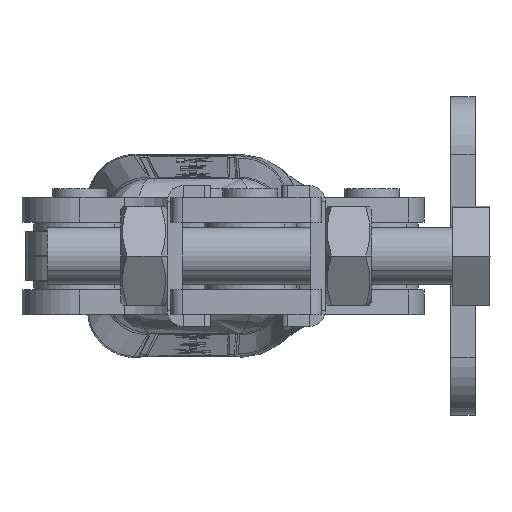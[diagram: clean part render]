
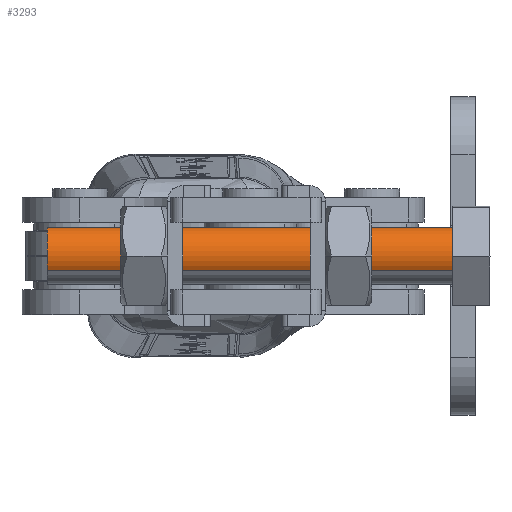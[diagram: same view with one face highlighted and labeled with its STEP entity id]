
A CAD part, left-side view. The second image highlights one B-rep face of the part: STEP entity #3293.
In plain terms, the highlighted cylindrical face has radius 5 mm (diameter 10 mm), a partial arc.
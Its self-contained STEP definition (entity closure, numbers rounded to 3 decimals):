
#76 = EDGE_CURVE ( 'NONE', #8134, #12377, #15923, .T. ) ;
#1326 = VECTOR ( 'NONE', #3403, 1000. ) ;
#1521 = CARTESIAN_POINT ( 'NONE',  ( 0., -70., 0. ) ) ;
#1565 = CARTESIAN_POINT ( 'NONE',  ( 0., -70., -5. ) ) ;
#3001 = AXIS2_PLACEMENT_3D ( 'NONE', #15591, #4621, #17432 ) ;
#3009 = LINE ( 'NONE', #16011, #17043 ) ;
#3293 = ADVANCED_FACE ( 'NONE', ( #4455 ), #8712, .T. ) ;
#3361 = DIRECTION ( 'NONE',  ( 0., 0., -1. ) ) ;
#3372 = ORIENTED_EDGE ( 'NONE', *, *, #76, .F. ) ;
#3403 = DIRECTION ( 'NONE',  ( 0., 1., 0. ) ) ;
#4197 = VERTEX_POINT ( 'NONE', #15765 ) ;
#4455 = FACE_OUTER_BOUND ( 'NONE', #6092, .T. ) ;
#4621 = DIRECTION ( 'NONE',  ( 0., -1., 0. ) ) ;
#4662 = CARTESIAN_POINT ( 'NONE',  ( 0., -70., -5. ) ) ;
#5830 = AXIS2_PLACEMENT_3D ( 'NONE', #1521, #14320, #3361 ) ;
#6092 = EDGE_LOOP ( 'NONE', ( #3372, #15662, #8999, #7585 ) ) ;
#7585 = ORIENTED_EDGE ( 'NONE', *, *, #21957, .T. ) ;
#8134 = VERTEX_POINT ( 'NONE', #4662 ) ;
#8471 = DIRECTION ( 'NONE',  ( 0., 0., 1. ) ) ;
#8712 = CYLINDRICAL_SURFACE ( 'NONE', #20749, 5. ) ;
#8999 = ORIENTED_EDGE ( 'NONE', *, *, #10319, .T. ) ;
#10319 = EDGE_CURVE ( 'NONE', #13085, #4197, #3009, .T. ) ;
#10351 = EDGE_CURVE ( 'NONE', #13085, #8134, #12164, .T. ) ;
#11778 = CARTESIAN_POINT ( 'NONE',  ( 0., -70., 5. ) ) ;
#12164 = CIRCLE ( 'NONE', #5830, 5. ) ;
#12377 = VERTEX_POINT ( 'NONE', #14909 ) ;
#13085 = VERTEX_POINT ( 'NONE', #11778 ) ;
#13938 = DIRECTION ( 'NONE',  ( 0., 1., 0. ) ) ;
#14009 = CARTESIAN_POINT ( 'NONE',  ( 0., -70., 0. ) ) ;
#14320 = DIRECTION ( 'NONE',  ( 0., -1., 0. ) ) ;
#14909 = CARTESIAN_POINT ( 'NONE',  ( 0., 0., -5. ) ) ;
#15591 = CARTESIAN_POINT ( 'NONE',  ( 0., 0., 0. ) ) ;
#15662 = ORIENTED_EDGE ( 'NONE', *, *, #10351, .F. ) ;
#15765 = CARTESIAN_POINT ( 'NONE',  ( 0., 0., 5. ) ) ;
#15923 = LINE ( 'NONE', #1565, #1326 ) ;
#16011 = CARTESIAN_POINT ( 'NONE',  ( 0., -70., 5. ) ) ;
#17043 = VECTOR ( 'NONE', #21422, 1000. ) ;
#17432 = DIRECTION ( 'NONE',  ( 0., 0., 1. ) ) ;
#18232 = CIRCLE ( 'NONE', #3001, 5. ) ;
#20749 = AXIS2_PLACEMENT_3D ( 'NONE', #14009, #13938, #8471 ) ;
#21422 = DIRECTION ( 'NONE',  ( 0., 1., 0. ) ) ;
#21957 = EDGE_CURVE ( 'NONE', #4197, #12377, #18232, .T. ) ;
